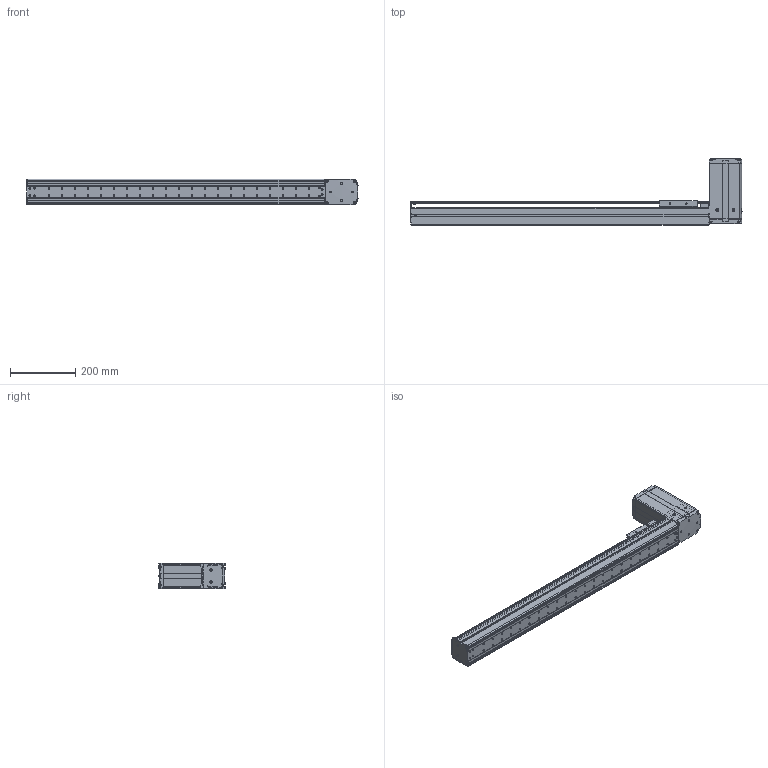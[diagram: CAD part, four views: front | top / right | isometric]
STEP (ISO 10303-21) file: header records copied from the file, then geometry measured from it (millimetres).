
FILE_DESCRIPTION((''),'2;1');
FILE_NAME('BE10_-BT-M_N-70_IGS_PRT','2017-06-18T',(' '),(''),'PRO/ENGINEER BY PARAMETRIC TECHNOLOGY CORPORATION, 2015030','PRO/ENGINEER BY PARAMETRIC TECHNOLOGY CORPORATION, 2015030','');
FILE_SCHEMA(('CONFIG_CONTROL_DESIGN'));
Products named in the file (1): BE10_-BT-M_N-70_IGS_PRT
Bounding box: 1020.8 x 204.72 x 78 mm (x, y, z)
Volume: 1321126.9 mm3; surface area: 936013.5 mm2
Topology: 3 solids, 136 shells, 2073 faces, 5657 edges, 3721 vertices
Faces by surface type: plane 988, cylinder 914, cone 111, sphere 30, torus 27, bspline 3
Entity records: 67348 total; most frequent: CARTESIAN_POINT 13756, DIRECTION 11377, ORIENTED_EDGE 10734, EDGE_CURVE 5595, AXIS2_PLACEMENT_3D 4074, VERTEX_POINT 3721, VECTOR 3229, LINE 3229
